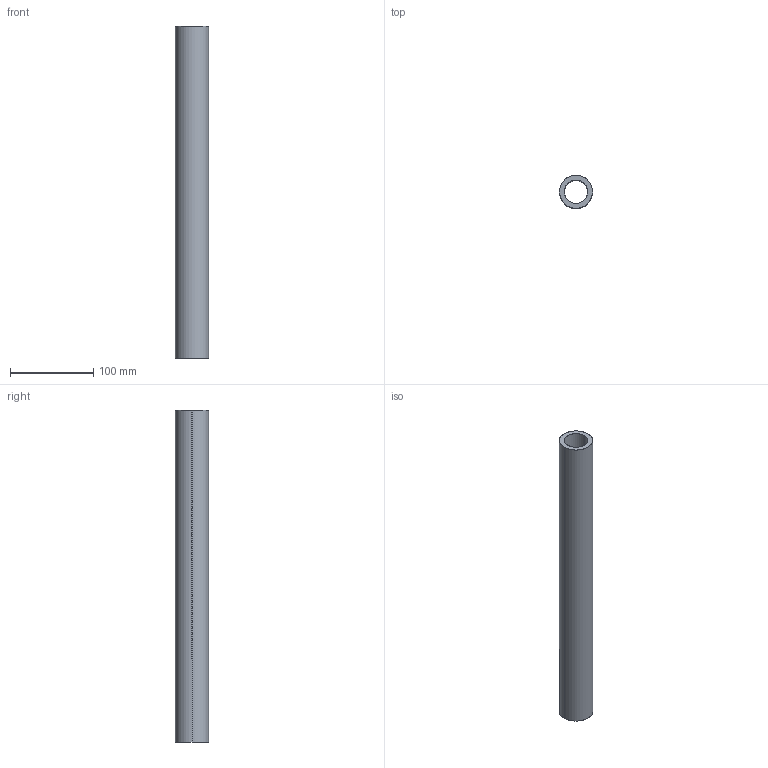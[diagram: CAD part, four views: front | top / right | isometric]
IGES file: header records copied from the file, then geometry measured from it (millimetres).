
Start section: SolidWorks IGES file using analytic representation for surfaces
Global section: file name: C:\Users\IanO\Desktop\L1771_v2\L1771.40_v2\L1771.40_v2_20230705_IGES\L1771.40-0400.igs; native system: SolidWorks 2019; preprocessor: SolidWorks 2019; author: IanO; date: 230705.155934; units: millimetre
Bounding box: 40 x 40 x 400 mm (x, y, z)
Surface area: 86733.1 mm2 (no closed solid volume)
Topology: 0 solids, 0 shells, 6 faces, 272 edges, 272 vertices
Faces by surface type: revolution 4, bspline 2
